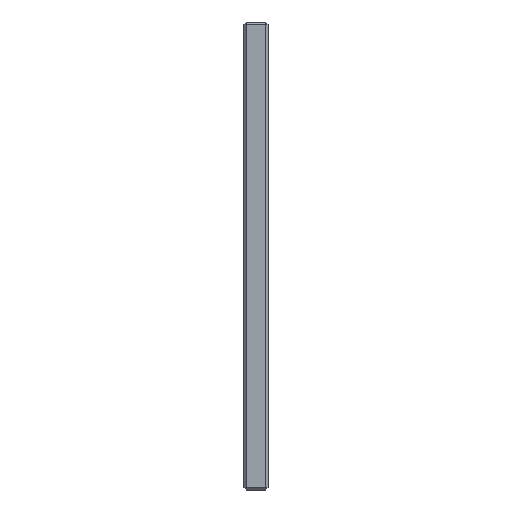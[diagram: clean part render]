
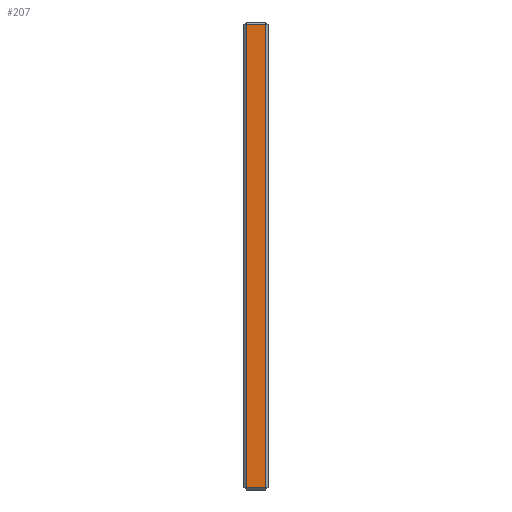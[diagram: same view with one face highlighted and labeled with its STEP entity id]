
A CAD part, left-side view. The second image highlights one B-rep face of the part: STEP entity #207.
In plain terms, the highlighted planar face has unit normal (-1, 0, 0).
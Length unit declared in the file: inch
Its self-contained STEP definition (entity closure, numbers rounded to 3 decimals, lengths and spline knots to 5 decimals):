
#52 = PLANE ( 'NONE',  #1531 ) ;
#71 = DIRECTION ( 'NONE',  ( 0., 1., 0. ) ) ;
#115 = CARTESIAN_POINT ( 'NONE',  ( -7.9375, 0.05, -4.825 ) ) ;
#134 = DIRECTION ( 'NONE',  ( 0., 0., 1. ) ) ;
#135 = LINE ( 'NONE', #1263, #302 ) ;
#152 = VERTEX_POINT ( 'NONE', #974 ) ;
#185 = DIRECTION ( 'NONE',  ( 1., 0., 0. ) ) ;
#207 = ADVANCED_FACE ( 'Placement Plane', ( #1395 ), #52, .F. ) ;
#225 = CARTESIAN_POINT ( 'NONE',  ( -7.9375, 0.05, -4.875 ) ) ;
#244 = DIRECTION ( 'NONE',  ( 0., -1., 0. ) ) ;
#302 = VECTOR ( 'NONE', #1382, 39.37008 ) ;
#382 = CARTESIAN_POINT ( 'NONE',  ( -7.9375, 0.5, -4.825 ) ) ;
#567 = LINE ( 'NONE', #382, #1732 ) ;
#656 = EDGE_CURVE ( 'NONE', #1037, #1230, #135, .T. ) ;
#702 = ORIENTED_EDGE ( 'NONE', *, *, #1475, .T. ) ;
#753 = VECTOR ( 'NONE', #134, 39.37008 ) ;
#826 = CARTESIAN_POINT ( 'NONE',  ( -7.9375, 0.45, -4.825 ) ) ;
#872 = CARTESIAN_POINT ( 'NONE',  ( -7.9375, 0.45, 4.825 ) ) ;
#935 = LINE ( 'NONE', #225, #753 ) ;
#974 = CARTESIAN_POINT ( 'NONE',  ( -7.9375, 0.05, 4.825 ) ) ;
#980 = CARTESIAN_POINT ( 'NONE',  ( -7.9375, 0.5, -4.875 ) ) ;
#1037 = VERTEX_POINT ( 'NONE', #872 ) ;
#1052 = EDGE_CURVE ( 'NONE', #1543, #152, #935, .T. ) ;
#1079 = ORIENTED_EDGE ( 'NONE', *, *, #656, .T. ) ;
#1085 = ORIENTED_EDGE ( 'NONE', *, *, #1615, .T. ) ;
#1115 = DIRECTION ( 'NONE',  ( 0., 0., -1. ) ) ;
#1120 = CARTESIAN_POINT ( 'NONE',  ( -7.9375, 0.5, 4.825 ) ) ;
#1137 = LINE ( 'NONE', #1120, #1605 ) ;
#1230 = VERTEX_POINT ( 'NONE', #826 ) ;
#1263 = CARTESIAN_POINT ( 'NONE',  ( -7.9375, 0.45, -4.875 ) ) ;
#1365 = EDGE_LOOP ( 'NONE', ( #1079, #1085, #1472, #702 ) ) ;
#1382 = DIRECTION ( 'NONE',  ( 0., 0., -1. ) ) ;
#1395 = FACE_OUTER_BOUND ( 'NONE', #1365, .T. ) ;
#1472 = ORIENTED_EDGE ( 'NONE', *, *, #1052, .T. ) ;
#1475 = EDGE_CURVE ( 'NONE', #152, #1037, #1137, .T. ) ;
#1531 = AXIS2_PLACEMENT_3D ( 'NONE', #980, #185, #1115 ) ;
#1543 = VERTEX_POINT ( 'NONE', #115 ) ;
#1605 = VECTOR ( 'NONE', #71, 39.37008 ) ;
#1615 = EDGE_CURVE ( 'NONE', #1230, #1543, #567, .T. ) ;
#1732 = VECTOR ( 'NONE', #244, 39.37008 ) ;
